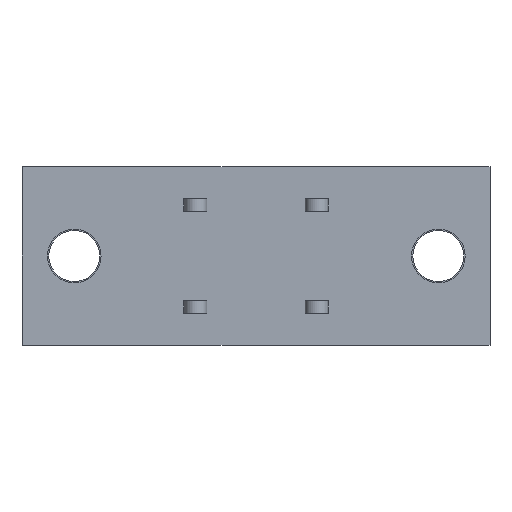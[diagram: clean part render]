
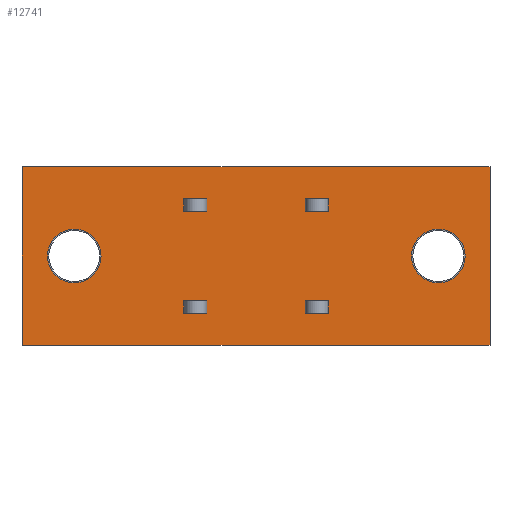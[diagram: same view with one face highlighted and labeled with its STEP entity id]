
A CAD part, front view. The second image highlights one B-rep face of the part: STEP entity #12741.
In plain terms, the highlighted planar face has unit normal (0, -1, 0).
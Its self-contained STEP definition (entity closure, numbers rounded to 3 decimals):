
#742=VECTOR('',#14338,1.);
#745=VECTOR('',#14344,1.);
#748=VECTOR('',#14348,1.);
#754=VECTOR('',#14357,1.);
#769=VECTOR('',#14391,1.);
#772=VECTOR('',#14399,1.);
#775=VECTOR('',#14407,1.);
#776=VECTOR('',#14409,1.);
#867=VECTOR('',#14612,1.);
#1423=VECTOR('',#15512,1.);
#1433=VECTOR('',#15536,1.);
#1434=VECTOR('',#15538,1.);
#1435=VECTOR('',#15539,1.);
#1436=VECTOR('',#15540,1.);
#1437=VECTOR('',#15541,1.);
#1438=VECTOR('',#15542,1.);
#1439=VECTOR('',#15543,1.);
#1440=VECTOR('',#15544,1.);
#1441=VECTOR('',#15545,1.);
#1442=VECTOR('',#15546,1.);
#2146=LINE('',#17024,#742);
#2149=LINE('',#17033,#745);
#2152=LINE('',#17039,#748);
#2158=LINE('',#17053,#754);
#2173=LINE('',#17093,#769);
#2176=LINE('',#17101,#772);
#2179=LINE('',#17109,#775);
#2180=LINE('',#17111,#776);
#2271=LINE('',#17358,#867);
#2827=LINE('',#19278,#1423);
#2837=LINE('',#19302,#1433);
#2838=LINE('',#19304,#1434);
#2839=LINE('',#19307,#1435);
#2840=LINE('',#19309,#1436);
#2841=LINE('',#19311,#1437);
#2842=LINE('',#19312,#1438);
#2843=LINE('',#19315,#1439);
#2844=LINE('',#19317,#1440);
#2845=LINE('',#19319,#1441);
#2846=LINE('',#19320,#1442);
#3588=PLANE('',#13552);
#3846=CIRCLE('',#13296,2.1);
#3902=CIRCLE('',#13545,2.1);
#4196=VERTEX_POINT('',#17025);
#4197=VERTEX_POINT('',#17026);
#4200=VERTEX_POINT('',#17034);
#4202=VERTEX_POINT('',#17040);
#4203=VERTEX_POINT('',#17041);
#4208=VERTEX_POINT('',#17054);
#4221=VERTEX_POINT('',#17094);
#4223=VERTEX_POINT('',#17102);
#4308=VERTEX_POINT('',#17357);
#4309=VERTEX_POINT('',#17359);
#4314=VERTEX_POINT('',#17390);
#4789=VERTEX_POINT('',#19277);
#4790=VERTEX_POINT('',#19279);
#4794=VERTEX_POINT('',#19289);
#4795=VERTEX_POINT('',#19305);
#4796=VERTEX_POINT('',#19306);
#4797=VERTEX_POINT('',#19308);
#4798=VERTEX_POINT('',#19310);
#4799=VERTEX_POINT('',#19313);
#4800=VERTEX_POINT('',#19314);
#4801=VERTEX_POINT('',#19316);
#4802=VERTEX_POINT('',#19318);
#5590=EDGE_CURVE('',#4196,#4197,#2146,.T.);
#5594=EDGE_CURVE('',#4197,#4200,#2149,.T.);
#5597=EDGE_CURVE('',#4202,#4203,#2152,.T.);
#5604=EDGE_CURVE('',#4203,#4208,#2158,.T.);
#5628=EDGE_CURVE('',#4200,#4221,#2173,.T.);
#5632=EDGE_CURVE('',#4208,#4223,#2176,.T.);
#5636=EDGE_CURVE('',#4223,#4202,#2179,.T.);
#5637=EDGE_CURVE('',#4221,#4196,#2180,.T.);
#5757=EDGE_CURVE('',#4309,#4308,#2271,.T.);
#5773=EDGE_CURVE('',#4314,#4314,#3846,.T.);
#6474=EDGE_CURVE('',#4790,#4789,#2827,.T.);
#6479=EDGE_CURVE('',#4794,#4794,#3902,.T.);
#6486=EDGE_CURVE('',#4789,#4309,#2837,.T.);
#6487=EDGE_CURVE('',#4795,#4796,#2838,.T.);
#6488=EDGE_CURVE('',#4797,#4795,#2839,.T.);
#6489=EDGE_CURVE('',#4798,#4797,#2840,.T.);
#6490=EDGE_CURVE('',#4796,#4798,#2841,.T.);
#6491=EDGE_CURVE('',#4799,#4800,#2842,.T.);
#6492=EDGE_CURVE('',#4801,#4799,#2843,.T.);
#6493=EDGE_CURVE('',#4802,#4801,#2844,.T.);
#6494=EDGE_CURVE('',#4800,#4802,#2845,.T.);
#6495=EDGE_CURVE('',#4790,#4308,#2846,.T.);
#9583=ORIENTED_EDGE('',*,*,#5632,.F.);
#9584=ORIENTED_EDGE('',*,*,#5604,.F.);
#9585=ORIENTED_EDGE('',*,*,#5597,.F.);
#9586=ORIENTED_EDGE('',*,*,#5636,.F.);
#9587=ORIENTED_EDGE('',*,*,#5628,.F.);
#9588=ORIENTED_EDGE('',*,*,#5594,.F.);
#9589=ORIENTED_EDGE('',*,*,#5590,.F.);
#9590=ORIENTED_EDGE('',*,*,#5637,.F.);
#9591=ORIENTED_EDGE('',*,*,#5773,.T.);
#9592=ORIENTED_EDGE('',*,*,#6487,.F.);
#9593=ORIENTED_EDGE('',*,*,#6488,.F.);
#9594=ORIENTED_EDGE('',*,*,#6489,.F.);
#9595=ORIENTED_EDGE('',*,*,#6490,.F.);
#9596=ORIENTED_EDGE('',*,*,#6491,.F.);
#9597=ORIENTED_EDGE('',*,*,#6492,.F.);
#9598=ORIENTED_EDGE('',*,*,#6493,.F.);
#9599=ORIENTED_EDGE('',*,*,#6494,.F.);
#9600=ORIENTED_EDGE('',*,*,#6479,.T.);
#9601=ORIENTED_EDGE('',*,*,#6486,.T.);
#9602=ORIENTED_EDGE('',*,*,#5757,.T.);
#9603=ORIENTED_EDGE('',*,*,#6495,.F.);
#9604=ORIENTED_EDGE('',*,*,#6474,.T.);
#11263=EDGE_LOOP('',(#9583,#9584,#9585,#9586));
#11264=EDGE_LOOP('',(#9587,#9588,#9589,#9590));
#11265=EDGE_LOOP('',(#9591));
#11266=EDGE_LOOP('',(#9592,#9593,#9594,#9595));
#11267=EDGE_LOOP('',(#9596,#9597,#9598,#9599));
#11268=EDGE_LOOP('',(#9600));
#11269=EDGE_LOOP('',(#9601,#9602,#9603,#9604));
#12025=FACE_BOUND('',#11263,.T.);
#12026=FACE_BOUND('',#11264,.T.);
#12027=FACE_BOUND('',#11265,.T.);
#12028=FACE_BOUND('',#11266,.T.);
#12029=FACE_BOUND('',#11267,.T.);
#12030=FACE_BOUND('',#11268,.T.);
#12031=FACE_BOUND('',#11269,.T.);
#12741=ADVANCED_FACE('',(#12025,#12026,#12027,#12028,#12029,#12030,#12031),
#3588,.T.);
#13296=AXIS2_PLACEMENT_3D('',#17389,#14645,#14646);
#13545=AXIS2_PLACEMENT_3D('',#19288,#15520,#15521);
#13552=AXIS2_PLACEMENT_3D('',#19303,#15537,$);
#14338=DIRECTION('',(1.,0.,0.));
#14344=DIRECTION('',(0.,0.,1.));
#14348=DIRECTION('',(-1.,0.,0.));
#14357=DIRECTION('',(0.,0.,-1.));
#14391=DIRECTION('',(-1.,0.,0.));
#14399=DIRECTION('',(1.,0.,0.));
#14407=DIRECTION('',(0.,0.,1.));
#14409=DIRECTION('',(0.,0.,-1.));
#14612=DIRECTION('',(0.,0.,1.));
#14645=DIRECTION('',(0.,1.,0.));
#14646=DIRECTION('',(2.1,0.,0.));
#15512=DIRECTION('',(0.,0.,-1.));
#15520=DIRECTION('',(0.,1.,0.));
#15521=DIRECTION('',(2.1,0.,0.));
#15536=DIRECTION('',(1.,0.,0.));
#15537=DIRECTION('',(0.,-1.,0.));
#15538=DIRECTION('',(1.,0.,0.));
#15539=DIRECTION('',(0.,0.,-1.));
#15540=DIRECTION('',(-1.,0.,0.));
#15541=DIRECTION('',(0.,0.,1.));
#15542=DIRECTION('',(-1.,0.,0.));
#15543=DIRECTION('',(0.,0.,1.));
#15544=DIRECTION('',(1.,0.,0.));
#15545=DIRECTION('',(0.,0.,-1.));
#15546=DIRECTION('',(1.,0.,0.));
#17024=CARTESIAN_POINT('',(21.075,0.,-4.5));
#17025=CARTESIAN_POINT('',(22.2,0.,-4.5));
#17026=CARTESIAN_POINT('',(24.,0.,-4.5));
#17033=CARTESIAN_POINT('',(24.,0.,-2.));
#17034=CARTESIAN_POINT('',(24.,0.,-3.5));
#17039=CARTESIAN_POINT('',(21.075,0.,4.5));
#17040=CARTESIAN_POINT('',(24.,0.,4.5));
#17041=CARTESIAN_POINT('',(22.2,0.,4.5));
#17053=CARTESIAN_POINT('',(22.2,0.,2.));
#17054=CARTESIAN_POINT('',(22.2,0.,3.5));
#17093=CARTESIAN_POINT('',(21.075,0.,-3.5));
#17094=CARTESIAN_POINT('',(22.2,0.,-3.5));
#17101=CARTESIAN_POINT('',(21.075,0.,3.5));
#17102=CARTESIAN_POINT('',(24.,0.,3.5));
#17109=CARTESIAN_POINT('',(24.,0.,2.));
#17111=CARTESIAN_POINT('',(22.2,0.,-2.));
#17357=CARTESIAN_POINT('',(36.7,0.,7.));
#17358=CARTESIAN_POINT('',(36.7,0.,7.));
#17359=CARTESIAN_POINT('',(36.7,0.,-7.));
#17389=CARTESIAN_POINT('',(32.65,0.,0.));
#17390=CARTESIAN_POINT('',(30.55,0.,0.));
#19277=CARTESIAN_POINT('',(0.,0.,-7.));
#19278=CARTESIAN_POINT('',(0.,0.,7.));
#19279=CARTESIAN_POINT('',(0.,0.,7.));
#19288=CARTESIAN_POINT('',(4.1,0.,0.));
#19289=CARTESIAN_POINT('',(2.,0.,0.));
#19302=CARTESIAN_POINT('',(0.,0.,-7.));
#19303=CARTESIAN_POINT('',(0.,0.,0.));
#19304=CARTESIAN_POINT('',(11.575,0.,3.5));
#19305=CARTESIAN_POINT('',(12.7,0.,3.5));
#19306=CARTESIAN_POINT('',(14.5,0.,3.5));
#19307=CARTESIAN_POINT('',(12.7,0.,2.));
#19308=CARTESIAN_POINT('',(12.7,0.,4.5));
#19309=CARTESIAN_POINT('',(11.575,0.,4.5));
#19310=CARTESIAN_POINT('',(14.5,0.,4.5));
#19311=CARTESIAN_POINT('',(14.5,0.,2.));
#19312=CARTESIAN_POINT('',(11.575,0.,-3.5));
#19313=CARTESIAN_POINT('',(14.5,0.,-3.5));
#19314=CARTESIAN_POINT('',(12.7,0.,-3.5));
#19315=CARTESIAN_POINT('',(14.5,0.,-2.));
#19316=CARTESIAN_POINT('',(14.5,0.,-4.5));
#19317=CARTESIAN_POINT('',(11.575,0.,-4.5));
#19318=CARTESIAN_POINT('',(12.7,0.,-4.5));
#19319=CARTESIAN_POINT('',(12.7,0.,-2.));
#19320=CARTESIAN_POINT('',(0.,0.,7.));
